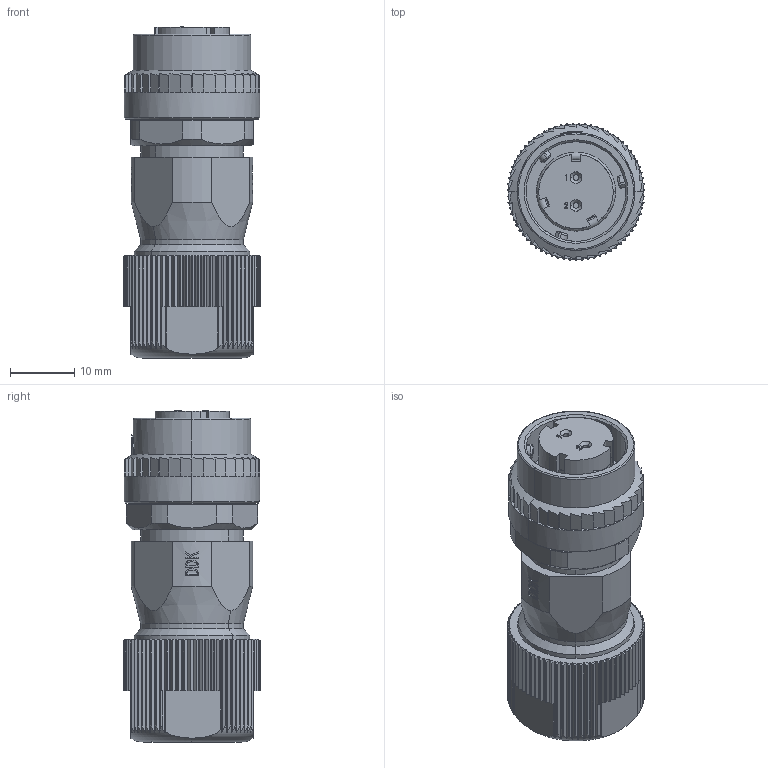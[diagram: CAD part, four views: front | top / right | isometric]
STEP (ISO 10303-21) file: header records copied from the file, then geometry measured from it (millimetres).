
FILE_DESCRIPTION (( 'STEP AP203' ), '1' );
FILE_NAME ('CM10-SP2S-L(D6).STEP', '2018-08-24T04:39:09', ( '' ), ( '' ), 'SwSTEP 2.0', 'SolidWorks 2018', '' );
FILE_SCHEMA (( 'CONFIG_CONTROL_DESIGN' ));
Length unit declared in the file: millimetre
Products named in the file (1): CM10-SP2S-L(D6)
Bounding box: 21.4 x 21.39 x 51.6 mm (x, y, z)
Volume: 10446.9 mm3; surface area: 7022.7 mm2
Topology: 1 solids, 1 shells, 1103 faces, 3049 edges, 1982 vertices
Faces by surface type: plane 486, cylinder 406, cone 116, bspline 75, torus 20
Entity records: 42186 total; most frequent: CARTESIAN_POINT 15229, ORIENTED_EDGE 6098, DIRECTION 5023, EDGE_CURVE 3049, VERTEX_POINT 1982, AXIS2_PLACEMENT_3D 1808, VECTOR 1407, LINE 1407
